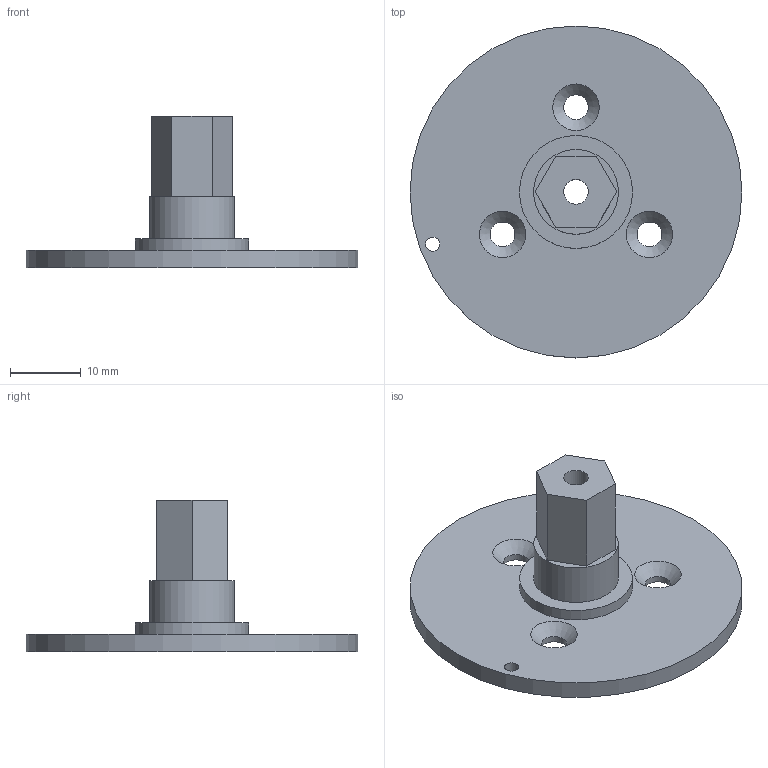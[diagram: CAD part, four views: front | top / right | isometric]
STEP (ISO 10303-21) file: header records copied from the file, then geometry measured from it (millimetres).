
FILE_DESCRIPTION(('Open CASCADE Model'),'2;1');
FILE_NAME('Open CASCADE Shape Model','2026-10-12T22:10:14',('Author'),( 'Open CASCADE'),'Open CASCADE STEP processor 7.9','Open CASCADE 7.9' ,'Unknown');
FILE_SCHEMA(('AUTOMOTIVE_DESIGN { 1 0 10303 214 1 1 1 1 }'));
Length unit declared in the file: millimetre
Products named in the file (1): Open CASCADE STEP translator 7.9 10
Bounding box: 47 x 47 x 21.5 mm (x, y, z)
Volume: 5985.5 mm3; surface area: 4771.4 mm2
Topology: 1 solids, 1 shells, 22 faces, 48 edges, 31 vertices
Faces by surface type: plane 11, cylinder 8, cone 3
Full cylindrical faces by diameter (mm): 2 x1, 3.5 x4, 12 x1, 16 x1, 47 x1
Entity records: 1261 total; most frequent: DIRECTION 209, CARTESIAN_POINT 198, LINE 109, VECTOR 109, ORIENTED_EDGE 96, PCURVE 96, DEFINITIONAL_REPRESENTATION 96, EDGE_CURVE 48
